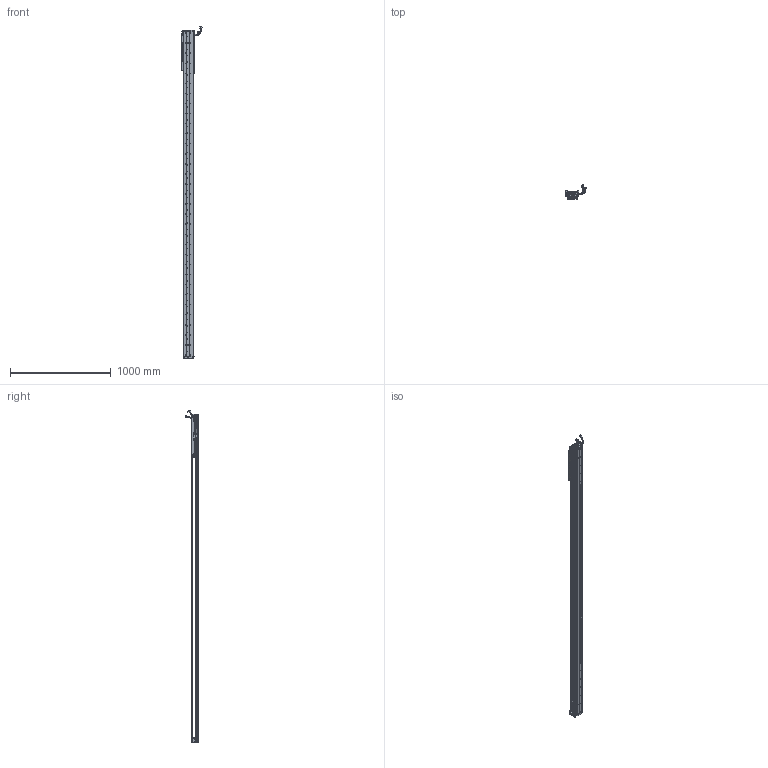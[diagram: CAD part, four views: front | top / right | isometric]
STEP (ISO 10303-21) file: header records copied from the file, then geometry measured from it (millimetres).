
FILE_DESCRIPTION (( 'STEP AP203' ), '1' );
FILE_NAME ('Z5-RY100D-1-L500-B-K.SLDASM_2800.step', '2021-05-17T03:35:35', ( '盈信电脑' ), ( '东莞市道滘镇水果街19号' ), 'SwSTEP 2.0', 'SolidWorks 2016', '' );
FILE_SCHEMA (( 'CONFIG_CONTROL_DESIGN' ));
Length unit declared in the file: millimetre
Products named in the file (36): COVER-Part-1; SCALE; HOLDER0; SEAL; Z5-RY100-L500詩湍90mm遵_2800; Z-RY100D覜茼んえ; SCREW-M1.7-1; HARNESS-Part-2; SCREW-M1.6-3; SCREW-M1.7; Z-RY100D詩湍奻揤裔; 100-Z-臏賑輸盄裔(21遴); COVER; SCREW-M1.6-1; SHIELDPLATE; SCALE-Part-2; Z-RY100D詩湍狟揤裔; PSLH080_PSLF2; LABEL-Part-1; SEAL-Part-1; 覜茼ん672; 140雄赽晤鎢ん堤盄; SCREW-M1.6-2; Z5-RY100D-1-L500-B-K.SLDASM_2800; 080黍杅芛假蚾釱21遴; HARNESS; 榋妏寠巭燃_暯_M2_2; SCREW-M1.6; LABEL; Z5-RY100D-500-倰第菁釱_2800; HARNESS-Part-1; SCALE-Part-1; Z-100詩湍傷裔啣; PBU_SHEET; Z5-RY100铝滑块（21款）; 140蚥薯蝶輸
Assembly tree (43 placements, depth 4):
  Z5-RY100D-1-L500-B-K.SLDASM_2800
    Z5-RY100D-500-倰第菁釱_2800
    Z5-RY100铝滑块（21款）
    PSLH080_PSLF2
      SCALE
        SCALE-Part-1
        SCALE-Part-2
      HARNESS
        HARNESS-Part-1
        HARNESS-Part-2
      LABEL
        LABEL-Part-1
      COVER
        COVER-Part-1
      SEAL
        SEAL-Part-1
      榋妏寠巭燃_暯_M2_2
      SHIELDPLATE
      SCREW-M1.7
      SCREW-M1.7-1
      PBU_SHEET
      SCREW-M1.6
      SCREW-M1.6-1
      SCREW-M1.6-2
      SCREW-M1.6-3
      HOLDER0
    080黍杅芛假蚾釱21遴
    Z-100詩湍傷裔啣  x2
    140蚥薯蝶輸  x2
    覜茼ん672  x3
    Z-RY100D覜茼んえ  x3
    100-Z-臏賑輸盄裔(21遴)
    140雄赽晤鎢ん堤盄
    Z5-RY100-L500詩湍90mm遵_2800
    Z-RY100D詩湍狟揤裔  x2
    Z-RY100D詩湍奻揤裔  x2
Bounding box: 205.79 x 136.11 x 3300.43 mm (x, y, z)
Volume: 6109319.4 mm3; surface area: 2383809.3 mm2
Topology: 38 solids, 38 shells, 3191 faces, 8809 edges, 5640 vertices
Faces by surface type: cylinder 1630, plane 1213, cone 226, torus 69, bspline 53
Entity records: 94215 total; most frequent: CARTESIAN_POINT 19679, DIRECTION 15287, ORIENTED_EDGE 14498, EDGE_CURVE 7249, AXIS2_PLACEMENT_3D 5788, VERTEX_POINT 4708, LINE 3711, VECTOR 3711
